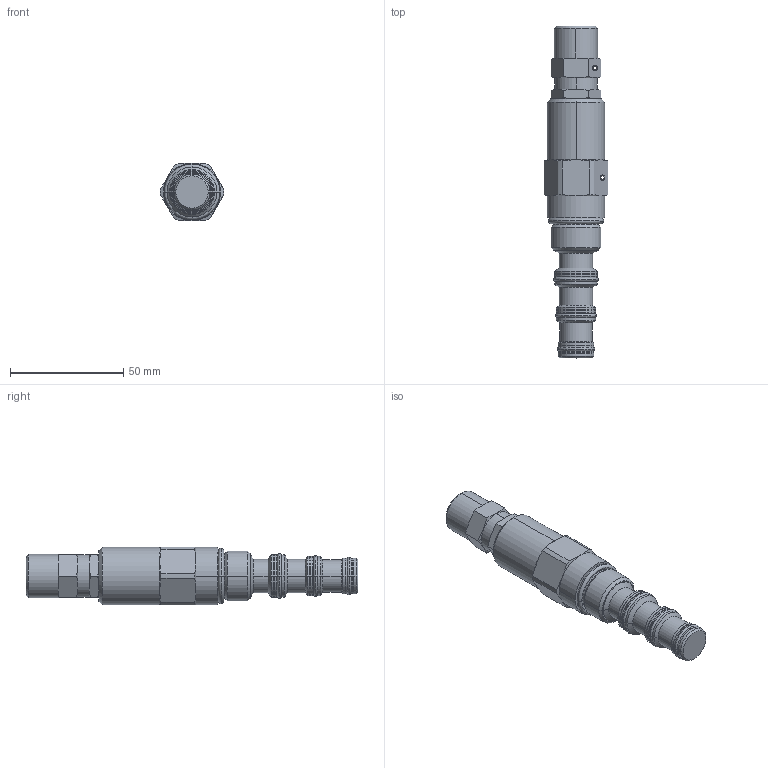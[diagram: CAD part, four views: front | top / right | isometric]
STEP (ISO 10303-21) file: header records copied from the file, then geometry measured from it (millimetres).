
FILE_DESCRIPTION((''),'2;1');
FILE_NAME('PRT0012','2009-03-24T',('JCS'),(''),'PRO/ENGINEER BY PARAMETRIC TECHNOLOGY CORPORATION, 2008510','PRO/ENGINEER BY PARAMETRIC TECHNOLOGY CORPORATION, 2008510','');
FILE_SCHEMA(('CONFIG_CONTROL_DESIGN'));
Length unit declared in the file: inch
Products named in the file (1): PRT0012
Bounding box: 28.19 x 146.77 x 25.4 mm (x, y, z)
Volume: 51614.8 mm3; surface area: 13372.1 mm2
Topology: 5 solids, 5 shells, 223 faces, 473 edges, 272 vertices
Faces by surface type: cylinder 65, cone 54, plane 40, torus 32, revolution 32
Entity records: 7050 total; most frequent: CARTESIAN_POINT 2228, DIRECTION 1039, ORIENTED_EDGE 946, EDGE_CURVE 473, AXIS2_PLACEMENT_3D 448, VERTEX_POINT 272, CIRCLE 257, EDGE_LOOP 247
